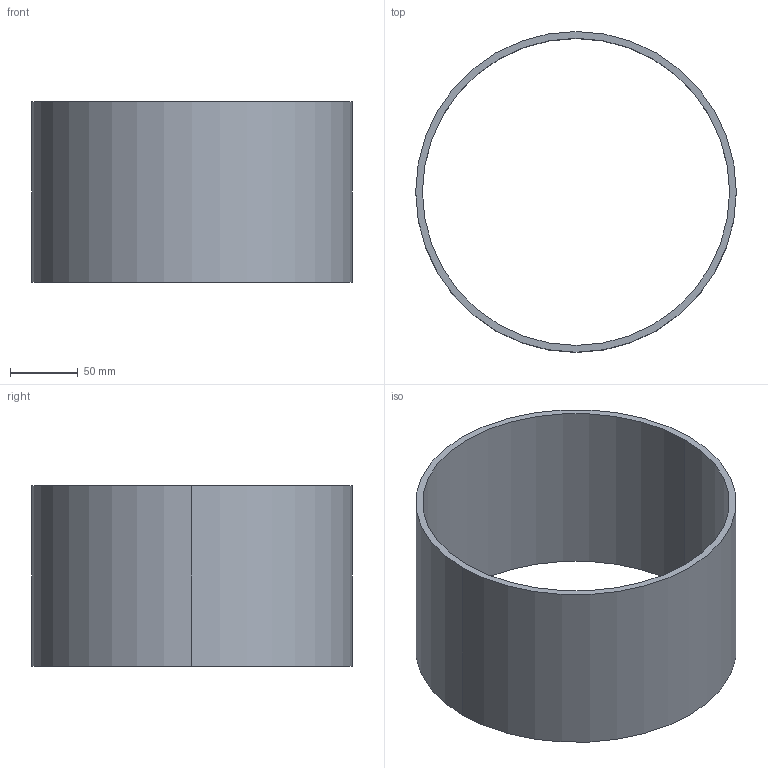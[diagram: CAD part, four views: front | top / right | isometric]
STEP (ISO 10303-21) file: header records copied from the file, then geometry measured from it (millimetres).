
FILE_DESCRIPTION(('CATIA V5 STEP Exchange'),'2;1');
FILE_NAME('C:\_Andres\UNIVERSIDAD\IQS\ASIGNATURAS\DAO\EXF\EXF-15161c\1original\Perelló_Ibarra_Ej07-tabla_v18.stp','2016-03-04T21:16:35+00:00',('none'),('none'),'CATIA Version 5 Release 20 SP 1 (IN-10)','CATIA V5 STEP AP203','none');
FILE_SCHEMA(('CONFIG_CONTROL_DESIGN'));
Length unit declared in the file: millimetre
Products named in the file (1): Perelló_Ibarra_Ej07-tabla_v18
Bounding box: 236 x 236 x 133 mm (x, y, z)
Volume: 482595.8 mm3; surface area: 200295.4 mm2
Topology: 1 solids, 1 shells, 6 faces, 13 edges, 10 vertices
Faces by surface type: cylinder 4, plane 2
Entity records: 208 total; most frequent: CARTESIAN_POINT 29, ORIENTED_EDGE 24, DIRECTION 23, AXIS2_PLACEMENT_3D 14, EDGE_CURVE 12, CIRCLE 8, EDGE_LOOP 8, VERTEX_POINT 8
